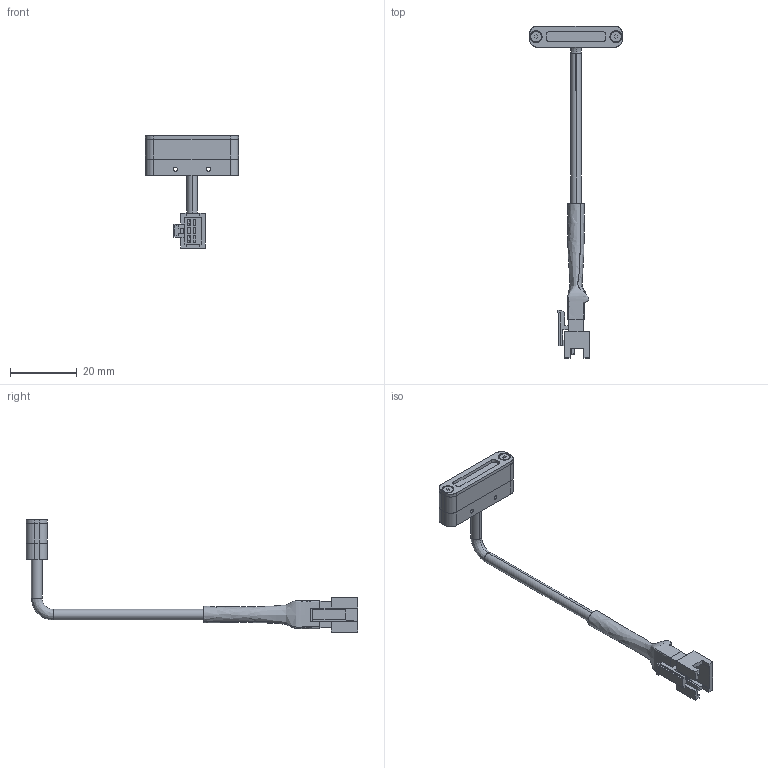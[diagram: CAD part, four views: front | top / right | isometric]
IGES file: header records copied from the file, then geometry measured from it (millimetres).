
Start section: SolidWorks IGES file using analytic representation for surfaces
Global section: file name: C:\Users\88691\Desktop\VBAU-193W\20250401 版本 (定案)\VBAU-193W _ Drawing _ L1481A_A00100.IGS; native system: SolidWorks 2020; preprocessor: SolidWorks 2020; author: 88691; date: 250603.112843; units: millimetre
Bounding box: 28 x 99.75 x 33.75 mm (x, y, z)
Surface area: 5704.4 mm2 (no closed solid volume)
Topology: 0 solids, 0 shells, 262 faces, 2372 edges, 2372 vertices
Faces by surface type: bspline 180, revolution 82
